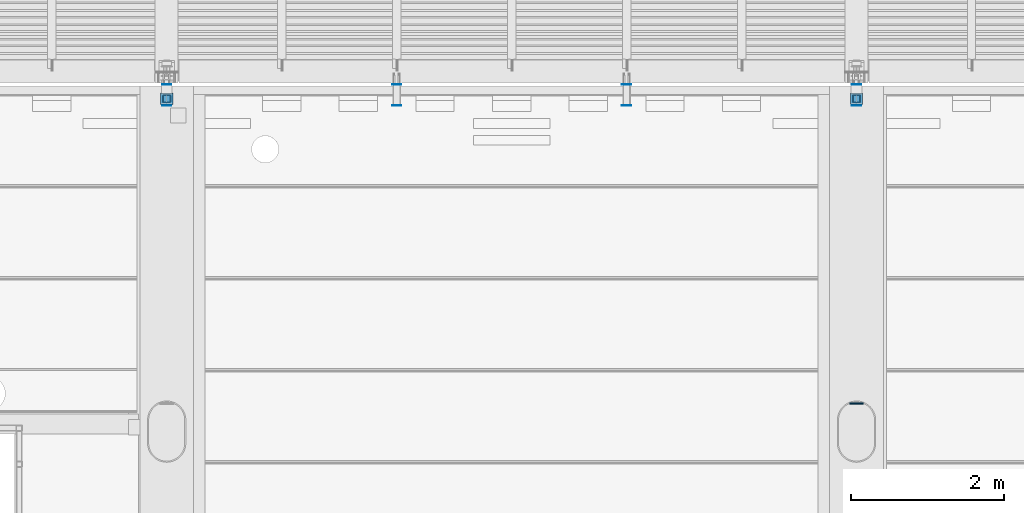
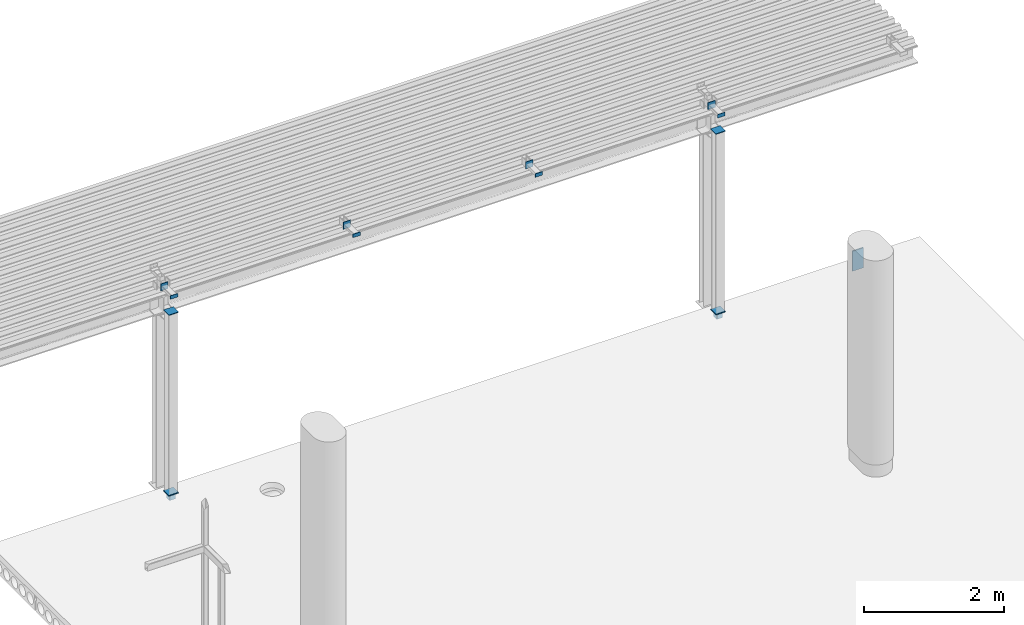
# One storey, part 2 of 34: 15 columns.
"""IFC2X3 building model written with IfcOpenShell, lengths in millimetres."""

import ifcopenshell
import ifcopenshell.guid

model = None  # the IFC model being written
_history = None  # IfcOwnerHistory: only IFC2X3 demands one
_inside = {}  # id of a spatial element -> (the spatial element, [elements in it])
_under = {}  # id of a project, library or spatial element -> (it, [spatial elements below it])
_declared = {}  # id of a project -> (the project, [libraries it declares])
_typed = {}  # id of a type object -> (the type object, [elements of that type])
_made_of = {}  # id of a material, layer set ... -> (it, [elements and type objects made of it])


def new_model(schema):
    """Start an empty IFC model of exactly this schema.

    Asked for "IFC4X3", IfcOpenShell would pick the latest addendum, in which some entities
    have other attributes; the version numbers below select the first issue.
    IFC2X3 requires an IfcOwnerHistory on every rooted entity: one is made here for all.
    """
    global model, _history
    if schema == "IFC4X3":
        model = ifcopenshell.file(schema_version=(4, 3, 0, 0))
    else:
        model = ifcopenshell.file(schema=schema)
    _inside.clear()
    _under.clear()
    _declared.clear()
    _typed.clear()
    _made_of.clear()
    _history = None
    if model.schema == "IFC2X3":
        org = make("IfcOrganization", Name="unknown")
        user = make(
            "IfcPersonAndOrganization",
            ThePerson=make("IfcPerson", FamilyName="unknown"),
            TheOrganization=org,
        )
        app = make(
            "IfcApplication",
            ApplicationDeveloper=org,
            Version="unknown",
            ApplicationFullName="unknown",
            ApplicationIdentifier="unknown",
        )
        _history = make(
            "IfcOwnerHistory",
            OwningUser=user,
            OwningApplication=app,
            ChangeAction="ADDED",
            CreationDate=0,
        )
    return model


def make(cls, **values):
    """One entity of the class cls with the attributes given. An attribute that is None is left unset."""
    return model.create_entity(
        cls, **{name: value for name, value in values.items() if value is not None}
    )


def entity(cls, *values):
    """Any entity or typed value of the class cls, its attributes in the order of the schema. None: left unset."""
    e = model.create_entity(cls)
    for i, value in enumerate(values):
        if value is not None:
            e[i] = value
    return e


def rooted(cls, **values):
    """An entity with a GlobalId (a new one), such as an element, a storey or a relation."""
    return make(cls, GlobalId=ifcopenshell.guid.new(), OwnerHistory=_history, **values)


def si_unit(unit_type, name, prefix=None):
    """IfcSIUnit, for example si_unit("LENGTHUNIT", "METRE", prefix="MILLI")."""
    return make("IfcSIUnit", UnitType=unit_type, Prefix=prefix, Name=name)


def converted_unit(unit_type, name, factor, base, dimensions=None, offset=None):
    """IfcConversionBasedUnit, such as the inch: factor (a typed value) times the base unit."""
    return make(
        "IfcConversionBasedUnit"
        if offset is None
        else "IfcConversionBasedUnitWithOffset",
        ConversionOffset=offset,
        Dimensions=None
        if dimensions is None
        else entity("IfcDimensionalExponents", *dimensions),
        UnitType=unit_type,
        Name=name,
        ConversionFactor=make(
            "IfcMeasureWithUnit", ValueComponent=factor, UnitComponent=base
        ),
    )


def derived_unit(unit_type, elements):
    """IfcDerivedUnit: a product of units, each with its exponent."""
    return make(
        "IfcDerivedUnit",
        Elements=[
            make("IfcDerivedUnitElement", Unit=unit, Exponent=power)
            for unit, power in elements
        ],
        UnitType=unit_type,
    )


def assignment(units):
    """IfcUnitAssignment: the units of a project."""
    return None if units is None else make("IfcUnitAssignment", Units=units)


def point(xyz):
    """IfcCartesianPoint."""
    return None if xyz is None else make("IfcCartesianPoint", Coordinates=xyz)


def direction(xyz):
    """IfcDirection."""
    return None if xyz is None else make("IfcDirection", DirectionRatios=xyz)


def frame(location, z_axis=None, x_axis=None):
    """IfcAxis2Placement3D, a coordinate frame: its origin and axes. An axis left out is left unset."""
    return make(
        "IfcAxis2Placement3D",
        Location=point(location),
        Axis=direction(z_axis),
        RefDirection=direction(x_axis),
    )


def frame_2d(location, x_axis=None):
    """IfcAxis2Placement2D, a coordinate frame in the plane: its origin and x axis."""
    return make(
        "IfcAxis2Placement2D", Location=point(location), RefDirection=direction(x_axis)
    )


def origin_with_axes():
    """The frame at (0, 0, 0) with the z axis (0, 0, 1) and the x axis (1, 0, 0) written out."""
    return frame((0.0, 0.0, 0.0), z_axis=(0.0, 0.0, 1.0), x_axis=(1.0, 0.0, 0.0))


def origin_2d_with_axis():
    """The frame at (0, 0) in the plane with the x axis (1, 0) written out."""
    return frame_2d((0.0, 0.0), x_axis=(1.0, 0.0))


def place(relative_to, where):
    """IfcLocalPlacement: puts the frame where relative to a parent placement (None: the world)."""
    return make(
        "IfcLocalPlacement", PlacementRelTo=relative_to, RelativePlacement=where
    )


def context(
    kind, dimensions, precision=None, world=None, true_north=None, identifier=None
):
    """IfcGeometricRepresentationContext, for example the 3D "Model" context."""
    return make(
        "IfcGeometricRepresentationContext",
        ContextIdentifier=identifier,
        ContextType=kind,
        CoordinateSpaceDimension=dimensions,
        Precision=precision,
        WorldCoordinateSystem=world,
        TrueNorth=true_north,
    )


def subcontext(parent, identifier, kind, view, scale=None):
    """IfcGeometricRepresentationSubContext, for example "Body" below "Model"."""
    return make(
        "IfcGeometricRepresentationSubContext",
        ContextIdentifier=identifier,
        ContextType=kind,
        ParentContext=parent,
        TargetScale=scale,
        TargetView=view,
    )


def project(units=None, contexts=None):
    """IfcProject with its units and contexts."""
    return rooted(
        "IfcProject",
        Name="project",
        RepresentationContexts=contexts,
        UnitsInContext=assignment(units),
    )


def spatial(cls, under=None, at=None, **own):
    """A site, building, storey or space (cls), placed at a placement, below another one or the project."""
    s = rooted(cls, ObjectPlacement=at, **own)
    if under is not None:
        _under.setdefault(under.id(), (under, []))[1].append(s)
    return s


def profile(cls, at=None, kind="AREA", **sizes):
    """A parametric profile (cls). Its sizes go by their IFC names, for example OverallWidth=200.0."""
    return make(cls, ProfileType=kind, Position=at, **sizes)


def rectangle(**sizes):
    """IfcRectangleProfileDef."""
    return profile("IfcRectangleProfileDef", **sizes)


def hollow_rectangle(**sizes):
    """IfcRectangleHollowProfileDef."""
    return profile("IfcRectangleHollowProfileDef", **sizes)


def extrude(swept, where, along, depth):
    """IfcExtrudedAreaSolid: the profile swept, set in the frame where, extruded along a direction by depth."""
    return make(
        "IfcExtrudedAreaSolid",
        SweptArea=swept,
        Position=where,
        ExtrudedDirection=direction(along),
        Depth=depth,
    )


def shape(context_of_items, identifier, shape_type, items):
    """IfcShapeRepresentation: the items that make up one representation, for example the "Body"."""
    return make(
        "IfcShapeRepresentation",
        ContextOfItems=context_of_items,
        RepresentationIdentifier=identifier,
        RepresentationType=shape_type,
        Items=items,
    )


def material(Name=None, Category=None):
    """IfcMaterial."""
    return make("IfcMaterial", Name=Name, Category=Category)


def made_of(thing, what):
    """Note that an element or type object is made of a material, layer set ...; save() writes the relation."""
    if what is not None:
        _made_of.setdefault(what.id(), (what, []))[1].append(thing)
    return thing


def type_object(cls, material=None, **own):
    """A type object (cls), such as IfcWallType, which elements share."""
    return made_of(rooted(cls, **own), material)


def element(
    cls,
    number,
    at=None,
    inside=None,
    cuts=None,
    type_object=None,
    material=None,
    context=None,
    identifier="Body",
    shape_type=None,
    held_by="IfcProductDefinitionShape",
    body=None,
    shapes=None,
    **own,
):
    """One element of the class cls, such as IfcWall. Its Tag is "e" and its number.

    at: its placement. inside: the storey or other place that contains it. cuts: it is an
    opening in that element (IfcRelVoidsElement). A single representation is given by context,
    identifier, shape_type and body (its items); several are given by shapes. held_by: the class
    of the entity that holds the representations. save() writes the other relations.
    """
    e = rooted(cls, Tag="e%d" % number, ObjectPlacement=at, **own)
    if body is not None:
        shapes = [shape(context, identifier, shape_type, body)]
    if shapes is not None:
        e.Representation = make(held_by, Representations=shapes)
    if inside is not None:
        _inside.setdefault(inside.id(), (inside, []))[1].append(e)
    if cuts is not None:
        rooted(
            "IfcRelVoidsElement", RelatingBuildingElement=cuts, RelatedOpeningElement=e
        )
    if type_object is not None:
        _typed.setdefault(type_object.id(), (type_object, []))[1].append(e)
    return made_of(e, material)


def aggregate(whole, parts):
    """IfcRelAggregates: a whole, such as a stair, and the parts it consists of."""
    return rooted("IfcRelAggregates", RelatingObject=whole, RelatedObjects=parts)


def save(model, path):
    """Write the relations noted so far, then the file.

    IfcRelAggregates (storeys below a building ...), IfcRelContainedInSpatialStructure (elements
    in a storey), IfcRelDefinesByType, IfcRelAssociatesMaterial and IfcRelDeclares: one each for
    every whole, place, type object, material and project.
    """
    for whole, parts in _under.values():
        aggregate(whole, parts)
    for where, things in _inside.values():
        rooted(
            "IfcRelContainedInSpatialStructure",
            RelatedElements=things,
            RelatingStructure=where,
        )
    for kind, things in _typed.values():
        rooted("IfcRelDefinesByType", RelatedObjects=things, RelatingType=kind)
    for what, things in _made_of.values():
        rooted("IfcRelAssociatesMaterial", RelatedObjects=things, RelatingMaterial=what)
    for by, libraries in _declared.values():
        rooted("IfcRelDeclares", RelatingContext=by, RelatedDefinitions=libraries)
    model.write(path)


model = new_model("IFC2X3")

# Units and contexts
model_context = context("Model", 3, precision=0.01, world=frame((0.0, 4.29681676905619e-09, 0.0)), true_north=direction((4.01073788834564e-13, 1.0)))
plan_context = context("Plan", 3, precision=0.01, world=frame((0.0, 4.29681676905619e-09, 0.0)), true_north=direction((4.01073788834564e-13, 1.0)))
body_context = subcontext(model_context, "Body", "Model", "MODEL_VIEW")
ifc_project = project(units=[converted_unit("PLANEANGLEUNIT", "DEGREE", entity("IfcPositiveLengthMeasure", 0.0174532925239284), si_unit("PLANEANGLEUNIT", "RADIAN"), dimensions=[0, 0, 0, 0, 0, 0, 0]), si_unit("AREAUNIT", "SQUARE_METRE"), si_unit("LENGTHUNIT", "METRE", prefix="MILLI"), si_unit("MASSUNIT", "GRAM", prefix="KILO"), si_unit("POWERUNIT", "WATT"), si_unit("PRESSUREUNIT", "PASCAL"), si_unit("FORCEUNIT", "NEWTON", prefix="KILO"), si_unit("ELECTRICVOLTAGEUNIT", "VOLT"), si_unit("ELECTRICCURRENTUNIT", "AMPERE"), si_unit("THERMODYNAMICTEMPERATUREUNIT", "DEGREE_CELSIUS"), si_unit("TIMEUNIT", "SECOND"), si_unit("VOLUMEUNIT", "CUBIC_METRE"), derived_unit("LINEARVELOCITYUNIT", [(si_unit("LENGTHUNIT", "METRE"), 1), (si_unit("TIMEUNIT", "SECOND"), -1)]), derived_unit("VOLUMETRICFLOWRATEUNIT", [(si_unit("VOLUMEUNIT", "CUBIC_METRE"), 1), (si_unit("TIMEUNIT", "SECOND"), -1)]), derived_unit("THERMALTRANSMITTANCEUNIT", [(si_unit("POWERUNIT", "WATT"), 1), (si_unit("THERMODYNAMICTEMPERATUREUNIT", "KELVIN"), -1), (si_unit("AREAUNIT", "SQUARE_METRE"), -1)]), derived_unit("SOUNDPRESSUREUNIT", [(si_unit("PRESSUREUNIT", "PASCAL"), 1)])], contexts=[model_context, plan_context])

# Site, building, storey
site_placement = place(None, frame((0.0, -4.29681676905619e-09, 0.0), z_axis=(0.0, 0.0, 1.0), x_axis=(1.0, 0.0, 0.0)))
site = spatial("IfcSite", under=ifc_project, at=site_placement, Name="Gardermoen", CompositionType="ELEMENT")
building_placement = place(site_placement, frame((0.0, 4.29681676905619e-09, 0.0), z_axis=(0.0, 0.0, 1.0), x_axis=(1.0, 0.0, 0.0)))
building = spatial("IfcBuilding", under=site, at=building_placement, Name="TH", CompositionType="ELEMENT")
storey_placement = place(building_placement, origin_with_axes())
storey = spatial("IfcBuildingStorey", under=building, at=storey_placement, Name="F", CompositionType="ELEMENT", Elevation=0.0)

# Columns
ifc_material_1 = material(Name="STEEL/S355")
column_type_1 = type_object("IfcColumnType", Name="PL10*120", PredefinedType="NOTDEFINED")
column_1_placement = place(storey_placement, frame((907000.000000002, 484829.999999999, 213539.998875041), z_axis=(0.0, 0.0, 1.0), x_axis=(1.0, 0.0, 0.0)))
element("IfcColumn", 1, at=column_1_placement, inside=storey, type_object=column_type_1, material=ifc_material_1, Name="STÅLSPESIAL", ObjectType="PL10*120", context=body_context, shape_type="SweptSolid", body=[
    extrude(rectangle(XDim=10.0, YDim=120.0, at=origin_2d_with_axis()), frame((0.0, 0.0, 119.999999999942), z_axis=(-3.99999553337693e-08, 0.0, -0.999999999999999), x_axis=(0.0, 1.0, 0.0)), (0.0, 0.0, 1.0), 120.0),
])
column_2_placement = place(storey_placement, frame((907000.000000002, 484554.999691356, 213559.998875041), z_axis=(0.0, 0.0, 1.0), x_axis=(1.0, 0.0, 0.0)))
element("IfcColumn", 2, at=column_2_placement, inside=storey, type_object=column_type_1, material=ifc_material_1, Name="STÅLSPESIAL", ObjectType="PL10*120", context=body_context, shape_type="SweptSolid", body=[
    extrude(rectangle(XDim=10.0, YDim=120.0, at=origin_2d_with_axis()), frame((0.0, 0.0, 60.0000000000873), z_axis=(-3.99999553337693e-08, 0.0, -0.999999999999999), x_axis=(0.0, 1.0, 0.0)), (0.0, 0.0, 1.0), 60.0),
])
column_3_placement = place(storey_placement, frame((898000.000000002, 484829.999999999, 213539.998875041), z_axis=(0.0, 0.0, 1.0), x_axis=(1.0, 0.0, 0.0)))
element("IfcColumn", 3, at=column_3_placement, inside=storey, type_object=column_type_1, material=ifc_material_1, Name="STÅLSPESIAL", ObjectType="PL10*120", context=body_context, shape_type="SweptSolid", body=[
    extrude(rectangle(XDim=10.0, YDim=120.0, at=origin_2d_with_axis()), frame((0.0, 0.0, 119.999999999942), z_axis=(-3.99999553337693e-08, 0.0, -0.999999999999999), x_axis=(0.0, 1.0, 0.0)), (0.0, 0.0, 1.0), 120.0),
])
column_4_placement = place(storey_placement, frame((898000.000000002, 484554.999691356, 213559.998875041), z_axis=(0.0, 0.0, 1.0), x_axis=(1.0, 0.0, 0.0)))
element("IfcColumn", 4, at=column_4_placement, inside=storey, type_object=column_type_1, material=ifc_material_1, Name="STÅLSPESIAL", ObjectType="PL10*120", context=body_context, shape_type="SweptSolid", body=[
    extrude(rectangle(XDim=10.0, YDim=120.0, at=origin_2d_with_axis()), frame((0.0, 0.0, 60.0000000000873), z_axis=(-3.99999553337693e-08, 0.0, -0.999999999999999), x_axis=(0.0, 1.0, 0.0)), (0.0, 0.0, 1.0), 60.0),
])
column_5_placement = place(storey_placement, frame((904000.000000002, 484829.999999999, 213560.00092537), z_axis=(0.0, 0.0, 1.0), x_axis=(1.0, 0.0, 0.0)))
element("IfcColumn", 5, at=column_5_placement, inside=storey, type_object=column_type_1, material=ifc_material_1, Name="STÅLSPESIAL", ObjectType="PL10*120", context=body_context, shape_type="SweptSolid", body=[
    extrude(rectangle(XDim=10.0, YDim=120.0, at=origin_2d_with_axis()), frame((0.0, 0.0, 119.999999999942), z_axis=(-3.99999553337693e-08, 0.0, -0.999999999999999), x_axis=(0.0, 1.0, 0.0)), (0.0, 0.0, 1.0), 120.0),
])
column_6_placement = place(storey_placement, frame((904000.000000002, 484554.999691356, 213580.00092537), z_axis=(0.0, 0.0, 1.0), x_axis=(1.0, 0.0, 0.0)))
element("IfcColumn", 6, at=column_6_placement, inside=storey, type_object=column_type_1, material=ifc_material_1, Name="STÅLSPESIAL", ObjectType="PL10*120", context=body_context, shape_type="SweptSolid", body=[
    extrude(rectangle(XDim=10.0, YDim=120.0, at=origin_2d_with_axis()), frame((0.0, 0.0, 60.0000000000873), z_axis=(-3.99999553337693e-08, 0.0, -0.999999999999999), x_axis=(0.0, 1.0, 0.0)), (0.0, 0.0, 1.0), 60.0),
])
column_7_placement = place(storey_placement, frame((901000.000000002, 484829.999999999, 213560.00092537), z_axis=(0.0, 0.0, 1.0), x_axis=(1.0, 0.0, 0.0)))
element("IfcColumn", 7, at=column_7_placement, inside=storey, type_object=column_type_1, material=ifc_material_1, Name="STÅLSPESIAL", ObjectType="PL10*120", context=body_context, shape_type="SweptSolid", body=[
    extrude(rectangle(XDim=10.0, YDim=120.0, at=origin_2d_with_axis()), frame((0.0, 0.0, 119.999999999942), z_axis=(-3.99999553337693e-08, 0.0, -0.999999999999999), x_axis=(0.0, 1.0, 0.0)), (0.0, 0.0, 1.0), 120.0),
])
column_8_placement = place(storey_placement, frame((901000.000000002, 484554.999691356, 213580.00092537), z_axis=(0.0, 0.0, 1.0), x_axis=(1.0, 0.0, 0.0)))
element("IfcColumn", 8, at=column_8_placement, inside=storey, type_object=column_type_1, material=ifc_material_1, Name="STÅLSPESIAL", ObjectType="PL10*120", context=body_context, shape_type="SweptSolid", body=[
    extrude(rectangle(XDim=10.0, YDim=120.0, at=origin_2d_with_axis()), frame((0.0, 0.0, 60.0000000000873), z_axis=(-3.99999553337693e-08, 0.0, -0.999999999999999), x_axis=(0.0, 1.0, 0.0)), (0.0, 0.0, 1.0), 60.0),
])
ifc_material_2 = material(Name="STEEL/S355J0")
column_type_2 = type_object("IfcColumnType", Name="PL15*160", PredefinedType="NOTDEFINED")
for number, where, z_axis, x_axis in (
    (9, (906999.999766, 484565.5, 210137.5), (0.0, 1.0, 0.0), (-1.0, 0.0, 6.61744490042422e-24)),
    (10, (897999.999766, 484565.5, 210137.5), (0.0, 1.0, 0.0), (-1.0, 0.0, 6.61744490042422e-24)),
):
    element("IfcColumn", number, at=place(storey_placement, frame(where, z_axis=z_axis, x_axis=x_axis)), inside=storey, type_object=column_type_2, material=ifc_material_2, Name="STÅLBJELKE", ObjectType="PL15*160", context=body_context, shape_type="SweptSolid", body=[
        extrude(rectangle(XDim=15.0, YDim=160.0, at=origin_2d_with_axis()), frame((0.0, 0.0, 153.0), z_axis=(-3.99999553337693e-08, 0.0, -0.999999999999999), x_axis=(0.0, 1.0, 0.0)), (0.0, 0.0, 1.0), 153.0),
    ])
column_type_3 = type_object("IfcColumnType", Name="RHS100*5", PredefinedType="NOTDEFINED")
for number, where, z_axis, x_axis in (
    (11, (906999.999766, 484642.0, 210030.0), (0.0, 0.0, 1.0), (0.0, 1.0, 0.0)),
    (12, (897999.999766, 484642.0, 210030.0), (0.0, 0.0, 1.0), (0.0, 1.0, 0.0)),
):
    element("IfcColumn", number, at=place(storey_placement, frame(where, z_axis=z_axis, x_axis=x_axis)), inside=storey, type_object=column_type_3, material=ifc_material_1, Name="STÅLSØYLE", ObjectType="RHS100*5", context=body_context, shape_type="SweptSolid", body=[
        extrude(hollow_rectangle(XDim=100.0, YDim=100.0, WallThickness=5.0, InnerFilletRadius=7.5, OuterFilletRadius=12.5, at=origin_2d_with_axis()), frame((0.0, 0.0, 100.0), z_axis=(-3.99999553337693e-08, 0.0, -0.999999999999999), x_axis=(0.0, 1.0, 0.0)), (0.0, 0.0, 1.0), 100.0),
    ])
column_type_4 = type_object("IfcColumnType", Name="PL10*160", PredefinedType="NOTDEFINED")
for number, where, z_axis, x_axis in (
    (13, (906999.999766, 484565.5, 213278.0), (0.0, 1.0, 0.0), (1.0, 0.0, 0.0)),
    (14, (897999.999766, 484565.5, 213278.0), (0.0, 1.0, 0.0), (1.0, 0.0, 0.0)),
):
    element("IfcColumn", number, at=place(storey_placement, frame(where, z_axis=z_axis, x_axis=x_axis)), inside=storey, type_object=column_type_4, material=ifc_material_2, Name="STÅLBJELKE", ObjectType="PL10*160", context=body_context, shape_type="SweptSolid", body=[
        extrude(rectangle(XDim=10.0, YDim=160.0, at=origin_2d_with_axis()), frame((0.0, 0.0, 153.0), z_axis=(-3.99999553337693e-08, 0.0, -0.999999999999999), x_axis=(0.0, 1.0, 0.0)), (0.0, 0.0, 1.0), 153.0),
    ])
column_type_5 = type_object("IfcColumnType", Name="PL20*180", PredefinedType="NOTDEFINED")
column_9_placement = place(storey_placement, frame((906999.999531, 480668.9956241, 213264.502668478), z_axis=(6.61744490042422e-24, 0.0, 1.0), x_axis=(-1.0, 0.0, 6.61744490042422e-24)))
element("IfcColumn", 15, at=column_9_placement, inside=storey, type_object=column_type_5, material=ifc_material_1, Name="INNSTØPNGODS", ObjectType="PL20*180", context=body_context, shape_type="SweptSolid", body=[
    extrude(rectangle(XDim=20.0, YDim=180.0, at=origin_2d_with_axis()), frame((0.0, 0.0, 350.000000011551), z_axis=(-3.99999553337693e-08, 0.0, -0.999999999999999), x_axis=(0.0, 1.0, 0.0)), (0.0, 0.0, 1.0), 350.0),
])

save(model, "model.ifc")
